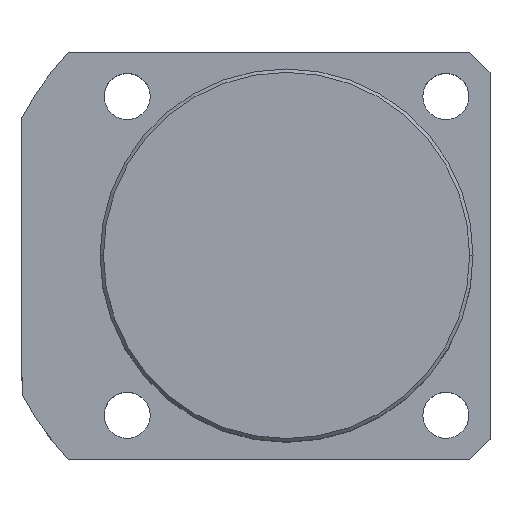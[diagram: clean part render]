
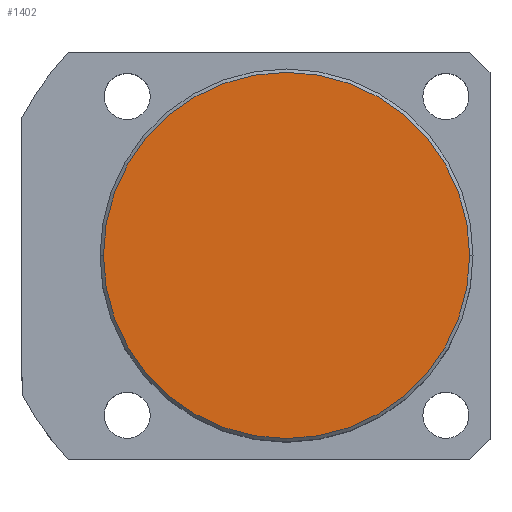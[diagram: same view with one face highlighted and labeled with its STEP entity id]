
A CAD part, top view. The second image highlights one B-rep face of the part: STEP entity #1402.
In plain terms, the highlighted planar face has unit normal (0, 0, 1).
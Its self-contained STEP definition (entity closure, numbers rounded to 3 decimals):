
#13 = DIRECTION ( 'NONE',  ( 1., 0., 0. ) ) ;
#233 = FACE_OUTER_BOUND ( 'NONE', #1404, .T. ) ;
#302 = DIRECTION ( 'NONE',  ( 0., 0., 1. ) ) ;
#321 = PLANE ( 'NONE',  #453 ) ;
#336 = DIRECTION ( 'NONE',  ( 1., 0., 0. ) ) ;
#401 = CIRCLE ( 'NONE', #1357, 27. ) ;
#427 = DIRECTION ( 'NONE',  ( 1., 0., 0. ) ) ;
#440 = EDGE_CURVE ( 'NONE', #940, #1517, #401, .T. ) ;
#453 = AXIS2_PLACEMENT_3D ( 'NONE', #718, #1159, #427 ) ;
#718 = CARTESIAN_POINT ( 'NONE',  ( 0., 0., 45. ) ) ;
#744 = CARTESIAN_POINT ( 'NONE',  ( 0., 0., 45. ) ) ;
#940 = VERTEX_POINT ( 'NONE', #1418 ) ;
#1087 = ORIENTED_EDGE ( 'NONE', *, *, #1102, .T. ) ;
#1102 = EDGE_CURVE ( 'NONE', #1517, #940, #1390, .T. ) ;
#1159 = DIRECTION ( 'NONE',  ( 0., 0., 1. ) ) ;
#1170 = DIRECTION ( 'NONE',  ( 0., 0., 1. ) ) ;
#1182 = CARTESIAN_POINT ( 'NONE',  ( 0., 0., 45. ) ) ;
#1357 = AXIS2_PLACEMENT_3D ( 'NONE', #744, #302, #13 ) ;
#1390 = CIRCLE ( 'NONE', #1467, 27. ) ;
#1402 = ADVANCED_FACE ( 'NONE', ( #233 ), #321, .T. ) ;
#1404 = EDGE_LOOP ( 'NONE', ( #1087, #1754 ) ) ;
#1418 = CARTESIAN_POINT ( 'NONE',  ( 27., 0., 45. ) ) ;
#1467 = AXIS2_PLACEMENT_3D ( 'NONE', #1182, #1170, #336 ) ;
#1517 = VERTEX_POINT ( 'NONE', #1595 ) ;
#1595 = CARTESIAN_POINT ( 'NONE',  ( -27., 0., 45. ) ) ;
#1754 = ORIENTED_EDGE ( 'NONE', *, *, #440, .T. ) ;
